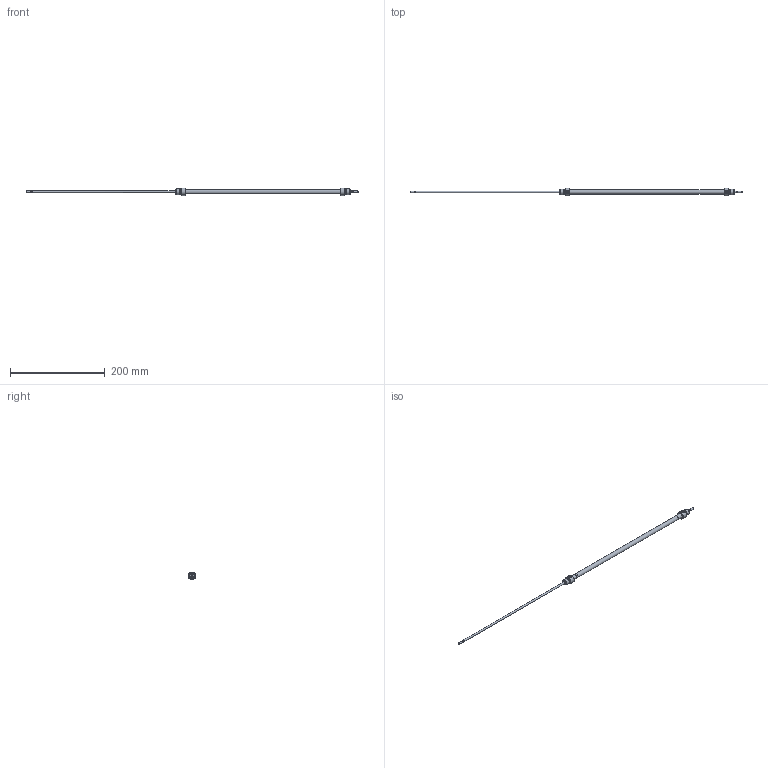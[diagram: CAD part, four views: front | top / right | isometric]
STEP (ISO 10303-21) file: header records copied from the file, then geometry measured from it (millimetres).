
FILE_DESCRIPTION( ( 'STEP AP203' ), '1' );
FILE_NAME( '//expscmdclustefs.cadenas.external/client_exchange/iodir/jobs/output/wkb68263202_no0/STEP/M101-08-0300--__0__2_03.stp', ' ', ( ' ' ), ( ' ' ), 'PSStep 15.0.47', 'PARTsolutions', ' ' );
FILE_SCHEMA( ( 'CONFIG_CONTROL_DESIGN' ) );
Length unit declared in the file: millimetre
Products named in the file (3): M101-08-0300-- [0]; HI_M101-08-0300---[0]-z; HI_M101-08-0300---[0]-k
Assembly tree (2 placements, depth 2):
  M101-08-0300-- [0]
    HI_M101-08-0300---[0]-z
    HI_M101-08-0300---[0]-k
Bounding box: 702 x 15.98 x 14.97 mm (x, y, z)
Volume: 21290.5 mm3; surface area: 29647.3 mm2
Topology: 2 solids, 2 shells, 71 faces, 145 edges, 88 vertices
Faces by surface type: plane 32, cylinder 23, cone 14, torus 2
Full cylindrical faces by diameter (mm): 3.141 x2, 4 x6, 4.134 x2, 8 x2, 9.3 x1, 10.466 x4, 12 x4
Entity records: 1838 total; most frequent: CARTESIAN_POINT 358, DIRECTION 312, ORIENTED_EDGE 212, AXIS2_PLACEMENT_3D 140, EDGE_LOOP 120, EDGE_CURVE 106, FACE_OUTER_BOUND 94, VERTEX_POINT 82
